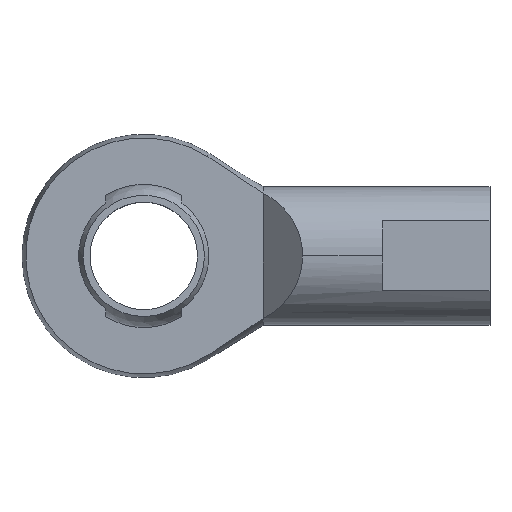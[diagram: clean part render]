
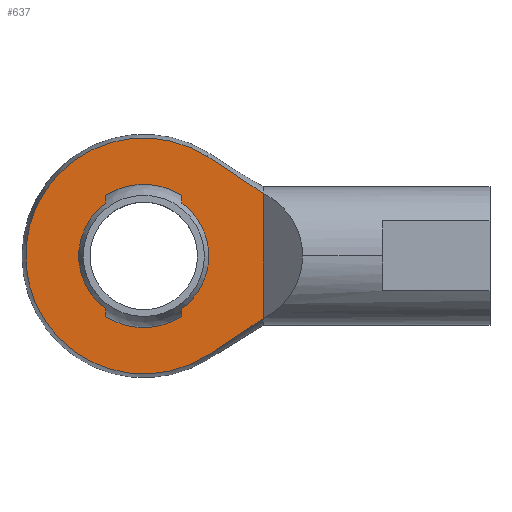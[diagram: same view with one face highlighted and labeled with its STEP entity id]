
A CAD part, top view. The second image highlights one B-rep face of the part: STEP entity #637.
In plain terms, the highlighted planar face has unit normal (0, 0, 1).
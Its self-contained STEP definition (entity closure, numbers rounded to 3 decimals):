
#16 = CARTESIAN_POINT ( 'NONE',  ( -16., 25.377, 12.5 ) ) ;
#142 = EDGE_CURVE ( 'NONE', #162, #567, #761, .T. ) ;
#162 = VERTEX_POINT ( 'NONE', #16 ) ;
#190 = VERTEX_POINT ( 'NONE', #1639 ) ;
#191 = EDGE_CURVE ( 'NONE', #192, #190, #1637, .T. ) ;
#192 = VERTEX_POINT ( 'NONE', #1641 ) ;
#425 = VERTEX_POINT ( 'NONE', #1102 ) ;
#430 = VERTEX_POINT ( 'NONE', #1131 ) ;
#447 = EDGE_CURVE ( 'NONE', #448, #425, #1152, .T. ) ;
#448 = VERTEX_POINT ( 'NONE', #1140 ) ;
#491 = VERTEX_POINT ( 'NONE', #1242 ) ;
#495 = EDGE_CURVE ( 'NONE', #496, #567, #1258, .T. ) ;
#496 = VERTEX_POINT ( 'NONE', #1247 ) ;
#516 = ORIENTED_EDGE ( 'NONE', *, *, #447, .T. ) ;
#523 = EDGE_CURVE ( 'NONE', #430, #448, #1338, .T. ) ;
#566 = VERTEX_POINT ( 'NONE', #1282 ) ;
#567 = VERTEX_POINT ( 'NONE', #1281 ) ;
#591 = ORIENTED_EDGE ( 'NONE', *, *, #686, .T. ) ;
#592 = ORIENTED_EDGE ( 'NONE', *, *, #593, .T. ) ;
#593 = EDGE_CURVE ( 'NONE', #618, #430, #1322, .T. ) ;
#594 = ORIENTED_EDGE ( 'NONE', *, *, #523, .T. ) ;
#596 = EDGE_CURVE ( 'NONE', #566, #491, #1344, .T. ) ;
#618 = VERTEX_POINT ( 'NONE', #1521 ) ;
#637 = ADVANCED_FACE ( 'NONE', ( #1404, #1403 ), #1402, .F. ) ;
#638 = EDGE_LOOP ( 'NONE', ( #640, #671, #673, #696, #693, #688, #675, #676 ) ) ;
#639 = EDGE_LOOP ( 'NONE', ( #591, #592, #594, #516 ) ) ;
#640 = ORIENTED_EDGE ( 'NONE', *, *, #596, .F. ) ;
#671 = ORIENTED_EDGE ( 'NONE', *, *, #672, .T. ) ;
#672 = EDGE_CURVE ( 'NONE', #566, #190, #1465, .T. ) ;
#673 = ORIENTED_EDGE ( 'NONE', *, *, #191, .F. ) ;
#675 = ORIENTED_EDGE ( 'NONE', *, *, #142, .F. ) ;
#676 = ORIENTED_EDGE ( 'NONE', *, *, #677, .F. ) ;
#677 = EDGE_CURVE ( 'NONE', #491, #162, #1498, .T. ) ;
#686 = EDGE_CURVE ( 'NONE', #425, #618, #1488, .T. ) ;
#688 = ORIENTED_EDGE ( 'NONE', *, *, #495, .T. ) ;
#691 = EDGE_CURVE ( 'NONE', #692, #192, #1358, .T. ) ;
#692 = VERTEX_POINT ( 'NONE', #1354 ) ;
#693 = ORIENTED_EDGE ( 'NONE', *, *, #694, .F. ) ;
#694 = EDGE_CURVE ( 'NONE', #496, #692, #1353, .T. ) ;
#696 = ORIENTED_EDGE ( 'NONE', *, *, #691, .F. ) ;
#758 = DIRECTION ( 'NONE',  ( 0., -1., 0. ) ) ;
#759 = VECTOR ( 'NONE', #758, 1000. ) ;
#760 = CARTESIAN_POINT ( 'NONE',  ( -16., 25.377, 12.5 ) ) ;
#761 = LINE ( 'NONE', #760, #759 ) ;
#1102 = CARTESIAN_POINT ( 'NONE',  ( 26.883, -41.497, 12.5 ) ) ;
#1131 = CARTESIAN_POINT ( 'NONE',  ( 50., 26.168, 12.5 ) ) ;
#1139 = DIRECTION ( 'NONE',  ( -1., 0., 0. ) ) ;
#1140 = CARTESIAN_POINT ( 'NONE',  ( 26.883, 41.497, 12.5 ) ) ;
#1141 = DIRECTION ( 'NONE',  ( 0., 0., 1. ) ) ;
#1142 = CARTESIAN_POINT ( 'NONE',  ( 0., 0., 12.5 ) ) ;
#1145 = AXIS2_PLACEMENT_3D ( 'NONE', #1142, #1141, #1139 ) ;
#1152 = CIRCLE ( 'NONE', #1145, 49.444 ) ;
#1242 = CARTESIAN_POINT ( 'NONE',  ( 16., 25.377, 12.5 ) ) ;
#1247 = CARTESIAN_POINT ( 'NONE',  ( -16., -22.085, 12.5 ) ) ;
#1248 = DIRECTION ( 'NONE',  ( -1., 0., 0. ) ) ;
#1249 = CARTESIAN_POINT ( 'NONE',  ( 0., 0., 12.5 ) ) ;
#1256 = DIRECTION ( 'NONE',  ( 0., 0., -1. ) ) ;
#1257 = AXIS2_PLACEMENT_3D ( 'NONE', #1249, #1256, #1248 ) ;
#1258 = CIRCLE ( 'NONE', #1257, 27.272 ) ;
#1281 = CARTESIAN_POINT ( 'NONE',  ( -16., 22.085, 12.5 ) ) ;
#1282 = CARTESIAN_POINT ( 'NONE',  ( 16., 22.085, 12.5 ) ) ;
#1308 = CARTESIAN_POINT ( 'NONE',  ( 42.348, 31.359, 12.5 ) ) ;
#1309 = CARTESIAN_POINT ( 'NONE',  ( 46.19, 28.787, 12.5 ) ) ;
#1310 = CARTESIAN_POINT ( 'NONE',  ( 50., 26.168, 12.5 ) ) ;
#1316 = DIRECTION ( 'NONE',  ( 0., 1., 0. ) ) ;
#1317 = VECTOR ( 'NONE', #1316, 1000. ) ;
#1318 = CARTESIAN_POINT ( 'NONE',  ( 50., -51., 12.5 ) ) ;
#1322 = LINE ( 'NONE', #1318, #1317 ) ;
#1334 = CARTESIAN_POINT ( 'NONE',  ( 26.883, 41.497, 12.5 ) ) ;
#1335 = CARTESIAN_POINT ( 'NONE',  ( 30.763, 38.984, 12.5 ) ) ;
#1336 = CARTESIAN_POINT ( 'NONE',  ( 34.635, 36.458, 12.5 ) ) ;
#1338 = B_SPLINE_CURVE_WITH_KNOTS ( 'NONE', 3,
 ( #1310, #1309, #1308, #1336, #1335, #1334 ),
 .UNSPECIFIED., .F., .F.,
 ( 4, 2, 4 ),
 ( 0.252, 0.266, 0.28 ),
 .UNSPECIFIED. ) ;
#1344 = LINE ( 'NONE', #1388, #1487 ) ;
#1350 = DIRECTION ( 'NONE',  ( 0., -1., 0. ) ) ;
#1351 = VECTOR ( 'NONE', #1350, 1000. ) ;
#1352 = CARTESIAN_POINT ( 'NONE',  ( -16., 25.377, 12.5 ) ) ;
#1353 = LINE ( 'NONE', #1352, #1351 ) ;
#1354 = CARTESIAN_POINT ( 'NONE',  ( -16., -25.377, 12.5 ) ) ;
#1355 = DIRECTION ( 'NONE',  ( 1., 0., 0. ) ) ;
#1356 = DIRECTION ( 'NONE',  ( 0., 0., 1. ) ) ;
#1357 = AXIS2_PLACEMENT_3D ( 'NONE', #1512, #1356, #1355 ) ;
#1358 = CIRCLE ( 'NONE', #1357, 30. ) ;
#1388 = CARTESIAN_POINT ( 'NONE',  ( 16., 25.377, 12.5 ) ) ;
#1397 = DIRECTION ( 'NONE',  ( -1., 0., 0. ) ) ;
#1398 = DIRECTION ( 'NONE',  ( 0., 0., -1. ) ) ;
#1399 = CARTESIAN_POINT ( 'NONE',  ( -51., -51., 12.5 ) ) ;
#1400 = AXIS2_PLACEMENT_3D ( 'NONE', #1399, #1398, #1397 ) ;
#1402 = PLANE ( 'NONE',  #1400 ) ;
#1403 = FACE_OUTER_BOUND ( 'NONE', #639, .T. ) ;
#1404 = FACE_BOUND ( 'NONE', #638, .T. ) ;
#1419 = DIRECTION ( 'NONE',  ( 0., 1., 0. ) ) ;
#1464 = AXIS2_PLACEMENT_3D ( 'NONE', #1501, #1500, #1499 ) ;
#1465 = CIRCLE ( 'NONE', #1464, 27.272 ) ;
#1487 = VECTOR ( 'NONE', #1419, 1000. ) ;
#1488 = B_SPLINE_CURVE_WITH_KNOTS ( 'NONE', 3,
 ( #1510, #1509, #1508, #1507, #1506, #1505 ),
 .UNSPECIFIED., .F., .F.,
 ( 4, 2, 4 ),
 ( 0.149, 0.163, 0.177 ),
 .UNSPECIFIED. ) ;
#1494 = DIRECTION ( 'NONE',  ( 1., 0., 0. ) ) ;
#1495 = DIRECTION ( 'NONE',  ( 0., 0., 1. ) ) ;
#1496 = CARTESIAN_POINT ( 'NONE',  ( 0., 0., 12.5 ) ) ;
#1497 = AXIS2_PLACEMENT_3D ( 'NONE', #1496, #1495, #1494 ) ;
#1498 = CIRCLE ( 'NONE', #1497, 30. ) ;
#1499 = DIRECTION ( 'NONE',  ( -1., 0., 0. ) ) ;
#1500 = DIRECTION ( 'NONE',  ( 0., 0., -1. ) ) ;
#1501 = CARTESIAN_POINT ( 'NONE',  ( 0., 0., 12.5 ) ) ;
#1505 = CARTESIAN_POINT ( 'NONE',  ( 50., -26.168, 12.5 ) ) ;
#1506 = CARTESIAN_POINT ( 'NONE',  ( 46.189, -28.787, 12.5 ) ) ;
#1507 = CARTESIAN_POINT ( 'NONE',  ( 42.347, -31.359, 12.5 ) ) ;
#1508 = CARTESIAN_POINT ( 'NONE',  ( 34.635, -36.458, 12.5 ) ) ;
#1509 = CARTESIAN_POINT ( 'NONE',  ( 30.763, -38.984, 12.5 ) ) ;
#1510 = CARTESIAN_POINT ( 'NONE',  ( 26.883, -41.497, 12.5 ) ) ;
#1512 = CARTESIAN_POINT ( 'NONE',  ( 0., 0., 12.5 ) ) ;
#1521 = CARTESIAN_POINT ( 'NONE',  ( 50., -26.168, 12.5 ) ) ;
#1634 = DIRECTION ( 'NONE',  ( 0., 1., 0. ) ) ;
#1635 = VECTOR ( 'NONE', #1634, 1000. ) ;
#1636 = CARTESIAN_POINT ( 'NONE',  ( 16., 25.377, 12.5 ) ) ;
#1637 = LINE ( 'NONE', #1636, #1635 ) ;
#1639 = CARTESIAN_POINT ( 'NONE',  ( 16., -22.085, 12.5 ) ) ;
#1641 = CARTESIAN_POINT ( 'NONE',  ( 16., -25.377, 12.5 ) ) ;
